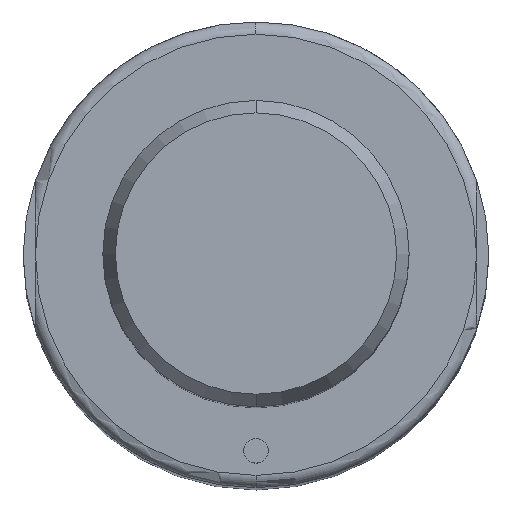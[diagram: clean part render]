
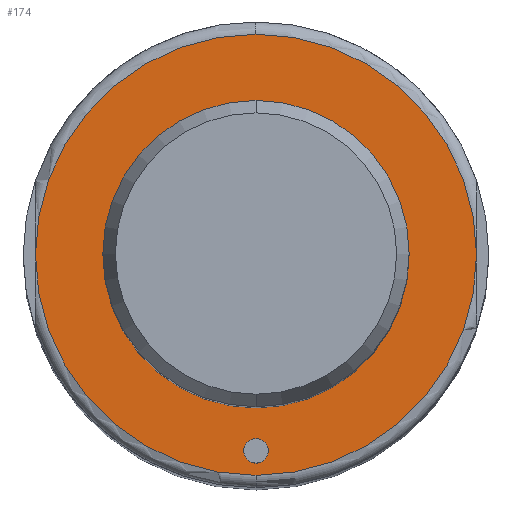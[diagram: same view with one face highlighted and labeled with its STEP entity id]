
A CAD part, top view. The second image highlights one B-rep face of the part: STEP entity #174.
In plain terms, the highlighted planar face has unit normal (0, 0, 1).
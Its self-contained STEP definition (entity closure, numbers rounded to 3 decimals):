
#105=FACE_BOUND('',#298,.T.);
#106=FACE_BOUND('',#299,.T.);
#107=FACE_BOUND('',#300,.T.);
#125=PLANE('',#985);
#174=ADVANCED_FACE('',(#105,#106,#107),#125,.T.);
#298=EDGE_LOOP('',(#459,#460,#461,#462));
#299=EDGE_LOOP('',(#463,#464));
#300=EDGE_LOOP('',(#465,#466));
#367=CIRCLE('',#968,12.5);
#368=CIRCLE('',#970,12.5);
#373=CIRCLE('',#979,18.);
#374=CIRCLE('',#980,18.);
#375=CIRCLE('',#981,18.);
#376=CIRCLE('',#982,18.);
#377=CIRCLE('',#983,1.);
#378=CIRCLE('',#984,1.);
#459=ORIENTED_EDGE('',*,*,#765,.F.);
#460=ORIENTED_EDGE('',*,*,#766,.F.);
#461=ORIENTED_EDGE('',*,*,#767,.F.);
#462=ORIENTED_EDGE('',*,*,#768,.F.);
#463=ORIENTED_EDGE('',*,*,#769,.F.);
#464=ORIENTED_EDGE('',*,*,#770,.F.);
#465=ORIENTED_EDGE('',*,*,#758,.T.);
#466=ORIENTED_EDGE('',*,*,#756,.T.);
#677=VERTEX_POINT('',#1411);
#678=VERTEX_POINT('',#1413);
#683=VERTEX_POINT('',#1432);
#684=VERTEX_POINT('',#1433);
#685=VERTEX_POINT('',#1435);
#686=VERTEX_POINT('',#1437);
#687=VERTEX_POINT('',#1440);
#688=VERTEX_POINT('',#1441);
#756=EDGE_CURVE('',#678,#677,#367,.T.);
#758=EDGE_CURVE('',#677,#678,#368,.T.);
#765=EDGE_CURVE('',#683,#684,#373,.T.);
#766=EDGE_CURVE('',#685,#683,#374,.T.);
#767=EDGE_CURVE('',#686,#685,#375,.T.);
#768=EDGE_CURVE('',#684,#686,#376,.T.);
#769=EDGE_CURVE('',#687,#688,#377,.T.);
#770=EDGE_CURVE('',#688,#687,#378,.T.);
#968=AXIS2_PLACEMENT_3D('',#1412,#1108,#1109);
#970=AXIS2_PLACEMENT_3D('',#1416,#1113,#1114);
#979=AXIS2_PLACEMENT_3D('',#1431,#1133,#1134);
#980=AXIS2_PLACEMENT_3D('',#1434,#1135,#1136);
#981=AXIS2_PLACEMENT_3D('',#1436,#1137,#1138);
#982=AXIS2_PLACEMENT_3D('',#1438,#1139,#1140);
#983=AXIS2_PLACEMENT_3D('',#1439,#1141,#1142);
#984=AXIS2_PLACEMENT_3D('',#1442,#1143,#1144);
#985=AXIS2_PLACEMENT_3D('',#1443,#1145,#1146);
#1108=DIRECTION('',(0.,0.,-1.));
#1109=DIRECTION('',(-1.,0.,0.));
#1113=DIRECTION('',(0.,0.,-1.));
#1114=DIRECTION('',(1.,0.,0.));
#1133=DIRECTION('',(0.,0.,-1.));
#1134=DIRECTION('',(-1.,0.,0.));
#1135=DIRECTION('',(0.,0.,-1.));
#1136=DIRECTION('',(1.,0.,0.));
#1137=DIRECTION('',(0.,0.,-1.));
#1138=DIRECTION('',(1.,0.,0.));
#1139=DIRECTION('',(0.,0.,-1.));
#1140=DIRECTION('',(-1.,0.,0.));
#1141=DIRECTION('',(0.,0.,1.));
#1142=DIRECTION('',(1.,0.,0.));
#1143=DIRECTION('',(0.,0.,1.));
#1144=DIRECTION('',(-1.,0.,0.));
#1145=DIRECTION('',(0.,0.,1.));
#1146=DIRECTION('',(1.,0.,0.));
#1411=CARTESIAN_POINT('',(0.,-12.5,112.));
#1412=CARTESIAN_POINT('',(0.,0.,112.));
#1413=CARTESIAN_POINT('',(0.,12.5,112.));
#1416=CARTESIAN_POINT('',(0.,0.,112.));
#1431=CARTESIAN_POINT('',(0.,0.,112.));
#1432=CARTESIAN_POINT('',(0.,18.,112.));
#1433=CARTESIAN_POINT('',(18.,0.,112.));
#1434=CARTESIAN_POINT('',(0.,0.,112.));
#1435=CARTESIAN_POINT('',(-18.,0.,112.));
#1436=CARTESIAN_POINT('',(0.,0.,112.));
#1437=CARTESIAN_POINT('',(0.,-18.,112.));
#1438=CARTESIAN_POINT('',(0.,0.,112.));
#1439=CARTESIAN_POINT('',(0.,-16.,112.));
#1440=CARTESIAN_POINT('',(0.,-15.,112.));
#1441=CARTESIAN_POINT('',(0.,-17.,112.));
#1442=CARTESIAN_POINT('',(0.,-16.,112.));
#1443=CARTESIAN_POINT('',(0.,0.,112.));
